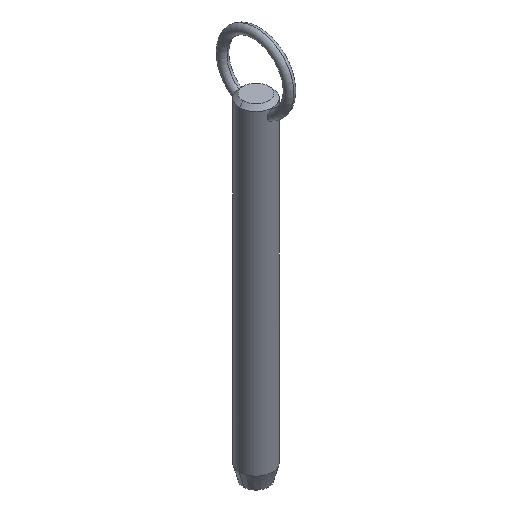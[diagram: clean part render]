
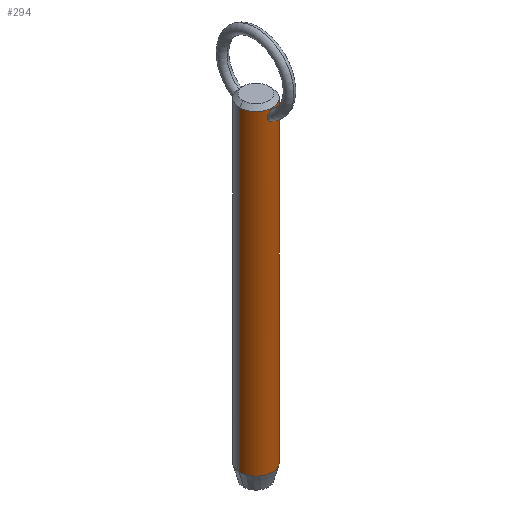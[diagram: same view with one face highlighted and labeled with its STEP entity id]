
A CAD part, isometric view. The second image highlights one B-rep face of the part: STEP entity #294.
In plain terms, the highlighted cylindrical face has radius 5.55 mm (diameter 11.1 mm), a partial arc.
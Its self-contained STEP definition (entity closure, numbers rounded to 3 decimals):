
#5 = CARTESIAN_POINT ( 'NONE',  ( 1.295, -5.397, 95.182 ) ) ;
#9 = CIRCLE ( 'NONE', #197, 5.55 ) ;
#11 = EDGE_LOOP ( 'NONE', ( #303, #13, #517, #465 ) ) ;
#13 = ORIENTED_EDGE ( 'NONE', *, *, #222, .T. ) ;
#16 = CARTESIAN_POINT ( 'NONE',  ( 0.716, -5.504, 92.852 ) ) ;
#20 = CARTESIAN_POINT ( 'NONE',  ( -1.195, -5.421, 95.371 ) ) ;
#24 = CARTESIAN_POINT ( 'NONE',  ( -5.55, 0., 91.4 ) ) ;
#26 = CARTESIAN_POINT ( 'NONE',  ( -0.513, -5.527, 96.023 ) ) ;
#27 = CARTESIAN_POINT ( 'NONE',  ( -1.503, -5.343, 94.259 ) ) ;
#30 = VECTOR ( 'NONE', #457, 1000. ) ;
#43 = LINE ( 'NONE', #229, #30 ) ;
#46 = CARTESIAN_POINT ( 'NONE',  ( 0., -5.55, 96.145 ) ) ;
#52 = DIRECTION ( 'NONE',  ( 0., 0., 1. ) ) ;
#53 = CARTESIAN_POINT ( 'NONE',  ( 0., -5.55, 96.145 ) ) ;
#55 = CARTESIAN_POINT ( 'NONE',  ( 1.44, -5.36, 94.786 ) ) ;
#59 = DIRECTION ( 'NONE',  ( 1., 0., 0. ) ) ;
#62 = DIRECTION ( 'NONE',  ( 0., 0., -1. ) ) ;
#63 = CARTESIAN_POINT ( 'NONE',  ( 0., -5.55, 92.677 ) ) ;
#65 = CARTESIAN_POINT ( 'NONE',  ( 0., -5.55, 96.145 ) ) ;
#68 = CARTESIAN_POINT ( 'NONE',  ( -5.55, 0., -9.2 ) ) ;
#74 = B_SPLINE_CURVE_WITH_KNOTS ( 'NONE', 3,
 ( #53, #398, #95, #389, #453, #489, #238, #102, #5, #55, #396, #354, #232, #458, #427, #315, #156, #392, #152, #98, #16, #235, #494, #192, #497, #63 ),
 .UNSPECIFIED., .F., .F.,
 ( 4, 2, 2, 2, 2, 2, 2, 2, 2, 2, 2, 2, 4 ),
 ( 0.005, 0.005, 0.005, 0.006, 0.006, 0.007, 0.007, 0.008, 0.008, 0.009, 0.009, 0.009, 0.01 ),
 .UNSPECIFIED. ) ;
#77 = DIRECTION ( 'NONE',  ( -1., 0., 0. ) ) ;
#89 = VERTEX_POINT ( 'NONE', #381 ) ;
#95 = CARTESIAN_POINT ( 'NONE',  ( 0.214, -5.547, 96.128 ) ) ;
#98 = CARTESIAN_POINT ( 'NONE',  ( 0.807, -5.492, 92.906 ) ) ;
#99 = CARTESIAN_POINT ( 'NONE',  ( 0., -5.55, 92.677 ) ) ;
#102 = CARTESIAN_POINT ( 'NONE',  ( 1.194, -5.422, 95.371 ) ) ;
#114 = CARTESIAN_POINT ( 'NONE',  ( -1.477, -5.35, 93.942 ) ) ;
#146 = CARTESIAN_POINT ( 'NONE',  ( -0.107, -5.55, 92.677 ) ) ;
#147 = CARTESIAN_POINT ( 'NONE',  ( -0.212, -5.547, 92.688 ) ) ;
#152 = CARTESIAN_POINT ( 'NONE',  ( 0.977, -5.464, 93.032 ) ) ;
#156 = CARTESIAN_POINT ( 'NONE',  ( 1.26, -5.407, 93.343 ) ) ;
#160 = CARTESIAN_POINT ( 'NONE',  ( -1.5, -5.343, 94.153 ) ) ;
#164 = CARTESIAN_POINT ( 'NONE',  ( -1.294, -5.398, 95.186 ) ) ;
#169 = DIRECTION ( 'NONE',  ( 0., 0., -1. ) ) ;
#170 = CARTESIAN_POINT ( 'NONE',  ( 0., 0., 91.4 ) ) ;
#177 = EDGE_CURVE ( 'NONE', #478, #89, #43, .T. ) ;
#180 = FACE_BOUND ( 'NONE', #341, .T. ) ;
#192 = CARTESIAN_POINT ( 'NONE',  ( 0.213, -5.547, 92.688 ) ) ;
#194 = VERTEX_POINT ( 'NONE', #236 ) ;
#197 = AXIS2_PLACEMENT_3D ( 'NONE', #358, #52, #234 ) ;
#199 = CARTESIAN_POINT ( 'NONE',  ( -0.939, -5.472, 95.71 ) ) ;
#204 = EDGE_CURVE ( 'NONE', #477, #89, #9, .T. ) ;
#222 = EDGE_CURVE ( 'NONE', #478, #443, #318, .T. ) ;
#227 = AXIS2_PLACEMENT_3D ( 'NONE', #483, #62, #59 ) ;
#229 = CARTESIAN_POINT ( 'NONE',  ( 5.55, 0., 91.4 ) ) ;
#230 = CARTESIAN_POINT ( 'NONE',  ( -1.26, -5.407, 93.342 ) ) ;
#231 = EDGE_CURVE ( 'NONE', #194, #399, #297, .T. ) ;
#232 = CARTESIAN_POINT ( 'NONE',  ( 1.5, -5.343, 94.154 ) ) ;
#233 = CYLINDRICAL_SURFACE ( 'NONE', #288, 5.55 ) ;
#234 = DIRECTION ( 'NONE',  ( -1., 0., 0. ) ) ;
#235 = CARTESIAN_POINT ( 'NONE',  ( 0.523, -5.526, 92.766 ) ) ;
#236 = CARTESIAN_POINT ( 'NONE',  ( 0., -5.55, 92.677 ) ) ;
#238 = CARTESIAN_POINT ( 'NONE',  ( 0.941, -5.471, 95.707 ) ) ;
#245 = CARTESIAN_POINT ( 'NONE',  ( -0.416, -5.535, 96.067 ) ) ;
#248 = CARTESIAN_POINT ( 'NONE',  ( 5.55, 0., 96.45 ) ) ;
#254 = EDGE_CURVE ( 'NONE', #443, #477, #380, .T. ) ;
#268 = CARTESIAN_POINT ( 'NONE',  ( -0.976, -5.464, 93.031 ) ) ;
#288 = AXIS2_PLACEMENT_3D ( 'NONE', #170, #169, #77 ) ;
#291 = CARTESIAN_POINT ( 'NONE',  ( -0.106, -5.55, 96.145 ) ) ;
#294 = ADVANCED_FACE ( 'NONE', ( #336, #180 ), #233, .T. ) ;
#297 = B_SPLINE_CURVE_WITH_KNOTS ( 'NONE', 3,
 ( #99, #146, #147, #353, #424, #451, #487, #268, #390, #230, #490, #355, #114, #160, #27, #464, #402, #164, #20, #199, #433, #26, #245, #330, #291, #65 ),
 .UNSPECIFIED., .F., .F.,
 ( 4, 2, 2, 2, 2, 2, 2, 2, 2, 2, 2, 2, 4 ),
 ( 0.01, 0.01, 0.01, 0.011, 0.011, 0.012, 0.012, 0.012, 0.013, 0.013, 0.014, 0.014, 0.015 ),
 .UNSPECIFIED. ) ;
#303 = ORIENTED_EDGE ( 'NONE', *, *, #177, .F. ) ;
#315 = CARTESIAN_POINT ( 'NONE',  ( 1.363, -5.38, 93.534 ) ) ;
#318 = CIRCLE ( 'NONE', #227, 5.55 ) ;
#322 = DIRECTION ( 'NONE',  ( 0., 0., -1. ) ) ;
#330 = CARTESIAN_POINT ( 'NONE',  ( -0.211, -5.547, 96.129 ) ) ;
#336 = FACE_OUTER_BOUND ( 'NONE', #11, .T. ) ;
#341 = EDGE_LOOP ( 'NONE', ( #456, #350 ) ) ;
#350 = ORIENTED_EDGE ( 'NONE', *, *, #231, .T. ) ;
#353 = CARTESIAN_POINT ( 'NONE',  ( -0.42, -5.535, 92.732 ) ) ;
#354 = CARTESIAN_POINT ( 'NONE',  ( 1.503, -5.343, 94.259 ) ) ;
#355 = CARTESIAN_POINT ( 'NONE',  ( -1.455, -5.356, 93.836 ) ) ;
#358 = CARTESIAN_POINT ( 'NONE',  ( 0., 0., -9.2 ) ) ;
#380 = LINE ( 'NONE', #24, #415 ) ;
#381 = CARTESIAN_POINT ( 'NONE',  ( 5.55, 0., -9.2 ) ) ;
#389 = CARTESIAN_POINT ( 'NONE',  ( 0.417, -5.535, 96.067 ) ) ;
#390 = CARTESIAN_POINT ( 'NONE',  ( -1.054, -5.449, 93.104 ) ) ;
#392 = CARTESIAN_POINT ( 'NONE',  ( 1.055, -5.449, 93.105 ) ) ;
#396 = CARTESIAN_POINT ( 'NONE',  ( 1.486, -5.347, 94.574 ) ) ;
#398 = CARTESIAN_POINT ( 'NONE',  ( 0.106, -5.55, 96.145 ) ) ;
#399 = VERTEX_POINT ( 'NONE', #46 ) ;
#402 = CARTESIAN_POINT ( 'NONE',  ( -1.44, -5.36, 94.787 ) ) ;
#415 = VECTOR ( 'NONE', #322, 1000. ) ;
#424 = CARTESIAN_POINT ( 'NONE',  ( -0.523, -5.526, 92.766 ) ) ;
#427 = CARTESIAN_POINT ( 'NONE',  ( 1.455, -5.356, 93.838 ) ) ;
#433 = CARTESIAN_POINT ( 'NONE',  ( -0.785, -5.497, 95.858 ) ) ;
#434 = EDGE_CURVE ( 'NONE', #399, #194, #74, .T. ) ;
#443 = VERTEX_POINT ( 'NONE', #468 ) ;
#451 = CARTESIAN_POINT ( 'NONE',  ( -0.716, -5.504, 92.852 ) ) ;
#453 = CARTESIAN_POINT ( 'NONE',  ( 0.515, -5.527, 96.022 ) ) ;
#456 = ORIENTED_EDGE ( 'NONE', *, *, #434, .T. ) ;
#457 = DIRECTION ( 'NONE',  ( 0., 0., -1. ) ) ;
#458 = CARTESIAN_POINT ( 'NONE',  ( 1.477, -5.35, 93.944 ) ) ;
#464 = CARTESIAN_POINT ( 'NONE',  ( -1.485, -5.348, 94.579 ) ) ;
#465 = ORIENTED_EDGE ( 'NONE', *, *, #204, .T. ) ;
#468 = CARTESIAN_POINT ( 'NONE',  ( -5.55, 0., 96.45 ) ) ;
#477 = VERTEX_POINT ( 'NONE', #68 ) ;
#478 = VERTEX_POINT ( 'NONE', #248 ) ;
#483 = CARTESIAN_POINT ( 'NONE',  ( 0., 0., 96.45 ) ) ;
#487 = CARTESIAN_POINT ( 'NONE',  ( -0.807, -5.492, 92.905 ) ) ;
#489 = CARTESIAN_POINT ( 'NONE',  ( 0.786, -5.497, 95.857 ) ) ;
#490 = CARTESIAN_POINT ( 'NONE',  ( -1.362, -5.381, 93.532 ) ) ;
#494 = CARTESIAN_POINT ( 'NONE',  ( 0.421, -5.535, 92.732 ) ) ;
#497 = CARTESIAN_POINT ( 'NONE',  ( 0.107, -5.55, 92.677 ) ) ;
#517 = ORIENTED_EDGE ( 'NONE', *, *, #254, .T. ) ;
